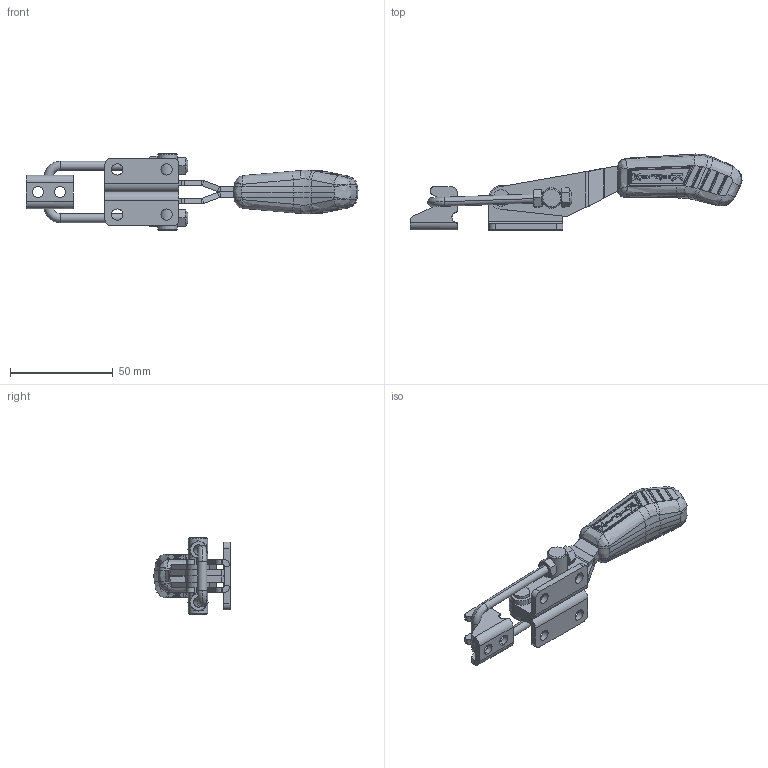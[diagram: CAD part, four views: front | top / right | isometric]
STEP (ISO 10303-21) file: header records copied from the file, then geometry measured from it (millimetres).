
FILE_DESCRIPTION (( 'STEP AP203' ), '1' );
FILE_NAME ('KF-743 D.STEP', '2017-10-05T11:52:57', ( 'Ricardo' ), ( '' ), 'SwSTEP 2.0', 'SolidWorks 2015', '' );
FILE_SCHEMA (( 'CONFIG_CONTROL_DESIGN' ));
Length unit declared in the file: millimetre
Products named in the file (12): 11.50005; 11.50013; 02.12039_Direita; 07.60005; 02.12039_Esquerda; 06.50023; 01.10053_Direita; KF-743 D; 01.10053_Esquerda; 16.20034; 03.20018; 15.10026
Assembly tree (13 placements, depth 2):
  KF-743 D
    02.12039_Direita
    02.12039_Esquerda
    01.10053_Direita
    01.10053_Esquerda
    16.20034
    03.20018
    15.10026
    11.50005  x2
    11.50013  x2
    07.60005
    06.50023
Bounding box: 161.44 x 36.96 x 37 mm (x, y, z)
Volume: 36661.3 mm3; surface area: 25129.7 mm2
Topology: 13 solids, 13 shells, 918 faces, 2324 edges, 1442 vertices
Faces by surface type: bspline 281, cylinder 274, plane 239, cone 66, sphere 50, torus 8
Entity records: 34496 total; most frequent: CARTESIAN_POINT 14915, ORIENTED_EDGE 4412, DIRECTION 3000, EDGE_CURVE 2206, VERTEX_POINT 1375, AXIS2_PLACEMENT_3D 1126, EDGE_LOOP 921, FACE_OUTER_BOUND 869
